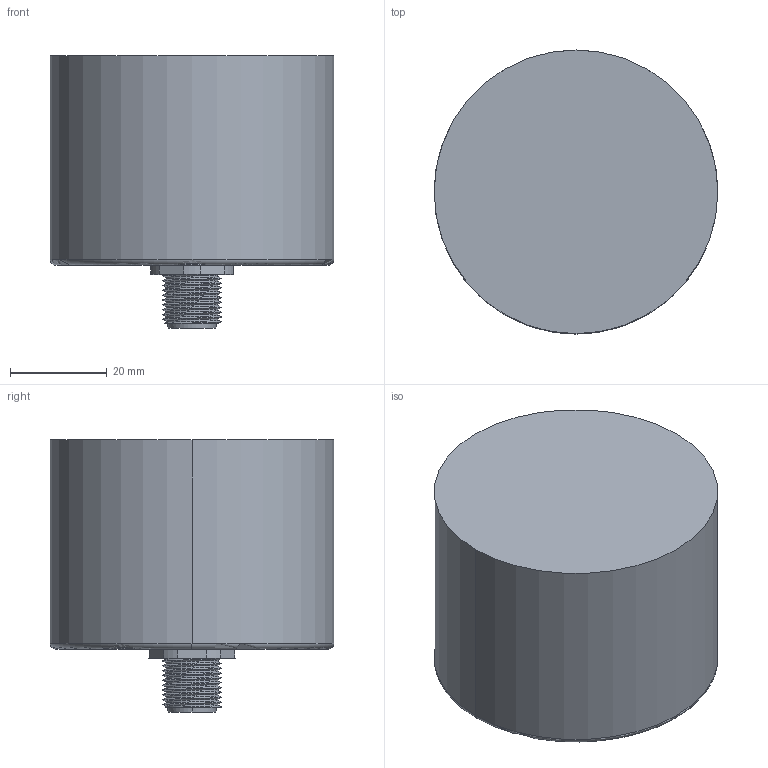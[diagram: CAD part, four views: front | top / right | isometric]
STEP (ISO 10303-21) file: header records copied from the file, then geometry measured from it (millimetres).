
FILE_DESCRIPTION (( 'STEP AP203' ), '1' );
FILE_NAME ('Drawing-OC-5-CA-432-SZM-12BNNN-Y-PAQ-N.STEP', '2013-04-18T11:16:00', ( '' ), ( '' ), 'SwSTEP 2.0', 'SolidWorks 2006104', '' );
FILE_SCHEMA (( 'CONFIG_CONTROL_DESIGN' ));
Length unit declared in the file: millimetre
Products named in the file (1): Drawing-OC-5-CA-432-SZM-12BNNN-Y-PAQ-N
Bounding box: 58.6 x 58.6 x 56.2 mm (x, y, z)
Volume: 11999.5 mm3; surface area: 29195.9 mm2
Topology: 9 solids, 9 shells, 379 faces, 949 edges, 580 vertices
Faces by surface type: cone 135, cylinder 125, torus 54, plane 53, sphere 8, bspline 4
Entity records: 14388 total; most frequent: CARTESIAN_POINT 5445, DIRECTION 2002, ORIENTED_EDGE 1822, EDGE_CURVE 911, AXIS2_PLACEMENT_3D 881, VERTEX_POINT 564, CIRCLE 505, EDGE_LOOP 407
